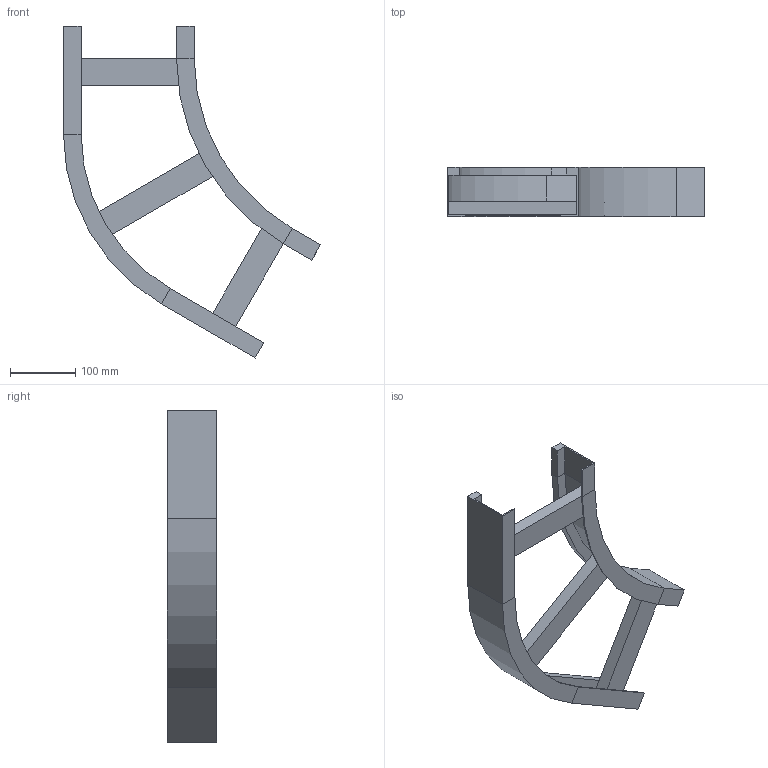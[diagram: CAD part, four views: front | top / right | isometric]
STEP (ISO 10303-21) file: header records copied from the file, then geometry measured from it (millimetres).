
FILE_DESCRIPTION (( 'STEP AP214' ), '1' );
FILE_NAME ('B2_13B3C200.step', '2025-02-21T15:21:38', ( '' ), ( '' ), 'SwSTEP 2.0', 'SolidWorks 2023', '' );
FILE_SCHEMA (( 'AUTOMOTIVE_DESIGN' ));
Length unit declared in the file: millimetre
Products named in the file (5): B2_LONGH.INTERNO 60°_H75_R300; B2_LONGH.ESTERNO 60°_H75_R300+200; B2_13B3C200; TRAVERSINO_200; TRAVERSINO_L226
Assembly tree (5 placements, depth 2):
  B2_13B3C200
    B2_LONGH.INTERNO 60°_H75_R300
    B2_LONGH.ESTERNO 60°_H75_R300+200
    TRAVERSINO_200  x2
    TRAVERSINO_L226
Bounding box: 393.3 x 75 x 508.01 mm (x, y, z)
Volume: 915809.4 mm3; surface area: 331191 mm2
Topology: 5 solids, 5 shells, 70 faces, 148 edges, 88 vertices
Faces by surface type: plane 62, cylinder 8
Entity records: 1822 total; most frequent: DIRECTION 296, CARTESIAN_POINT 288, ORIENTED_EDGE 272, EDGE_CURVE 136, VECTOR 120, LINE 120, AXIS2_PLACEMENT_3D 88, VERTEX_POINT 80
